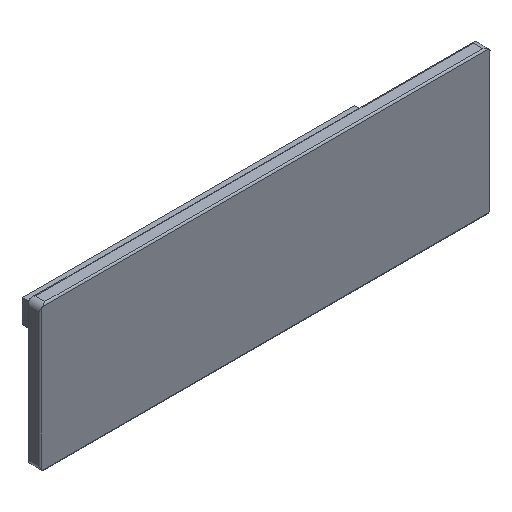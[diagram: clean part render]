
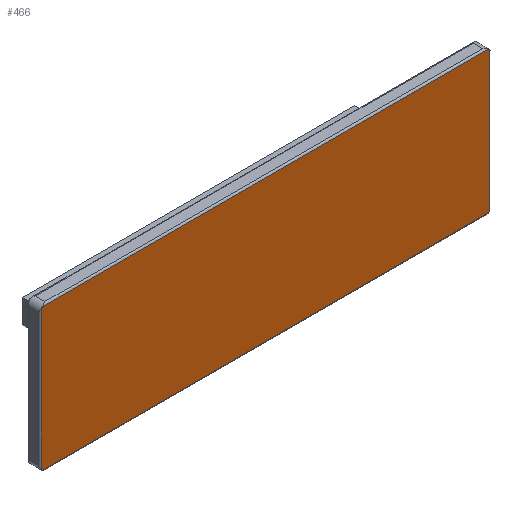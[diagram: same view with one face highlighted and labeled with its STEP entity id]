
A CAD part, isometric view. The second image highlights one B-rep face of the part: STEP entity #466.
In plain terms, the highlighted planar face has unit normal (0, -1, 0).
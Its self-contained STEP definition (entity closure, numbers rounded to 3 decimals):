
#286 = EDGE_CURVE( '', #670, #484, #739, .T. );
#288 = EDGE_CURVE( '', #368, #524, #741, .T. );
#348 = EDGE_CURVE( '', #524, #412, #810, .T. );
#354 = VERTEX_POINT( '', #817 );
#368 = VERTEX_POINT( '', #831 );
#394 = EDGE_CURVE( '', #484, #354, #860, .T. );
#412 = VERTEX_POINT( '', #879 );
#422 = VERTEX_POINT( '', #894 );
#450 = EDGE_CURVE( '', #354, #368, #923, .T. );
#466 = ADVANCED_FACE( '', ( #940 ), #941, .T. );
#484 = VERTEX_POINT( '', #961 );
#522 = EDGE_CURVE( '', #670, #422, #1003, .T. );
#524 = VERTEX_POINT( '', #1005 );
#566 = VERTEX_POINT( '', #1049 );
#616 = EDGE_CURVE( '', #566, #422, #1105, .T. );
#632 = EDGE_CURVE( '', #566, #412, #1122, .T. );
#670 = VERTEX_POINT( '', #1166 );
#739 = CIRCLE( '', #1267, 2. );
#741 = LINE( '', #1270, #1271 );
#810 = CIRCLE( '', #1392, 2. );
#817 = CARTESIAN_POINT( '', ( 117.5, -24., 21.823 ) );
#831 = CARTESIAN_POINT( '', ( 117.323, -24., 22. ) );
#860 = LINE( '', #1477, #1478 );
#879 = CARTESIAN_POINT( '', ( -21.5, -24., 21.823 ) );
#894 = CARTESIAN_POINT( '', ( -21.323, -24., -22. ) );
#923 = CIRCLE( '', #1586, 2. );
#940 = FACE_OUTER_BOUND( '', #1609, .T. );
#941 = PLANE( '', #1610 );
#961 = CARTESIAN_POINT( '', ( 117.5, -24., -21.823 ) );
#1003 = LINE( '', #1694, #1695 );
#1005 = CARTESIAN_POINT( '', ( -21.323, -24., 22. ) );
#1049 = CARTESIAN_POINT( '', ( -21.5, -24., -21.823 ) );
#1105 = CIRCLE( '', #1849, 2. );
#1122 = LINE( '', #1870, #1871 );
#1166 = CARTESIAN_POINT( '', ( 117.323, -24., -22. ) );
#1267 = AXIS2_PLACEMENT_3D( '', #1992, #1993, #1994 );
#1270 = CARTESIAN_POINT( '', ( 118., -24., 22. ) );
#1271 = VECTOR( '', #1995, 1. );
#1392 = AXIS2_PLACEMENT_3D( '', #2087, #2088, #2089 );
#1477 = CARTESIAN_POINT( '', ( 117.5, -24., 0. ) );
#1478 = VECTOR( '', #2140, 1. );
#1586 = AXIS2_PLACEMENT_3D( '', #2204, #2205, #2206 );
#1609 = EDGE_LOOP( '', ( #2219, #2220, #2221, #2222, #2223, #2224, #2225, #2226 ) );
#1610 = AXIS2_PLACEMENT_3D( '', #2227, #2228, #2229 );
#1694 = CARTESIAN_POINT( '', ( 118., -24., -22. ) );
#1695 = VECTOR( '', #2295, 1. );
#1849 = AXIS2_PLACEMENT_3D( '', #2382, #2383, #2384 );
#1870 = CARTESIAN_POINT( '', ( -21.5, -24., 0. ) );
#1871 = VECTOR( '', #2402, 1. );
#1992 = CARTESIAN_POINT( '', ( 116., -24., -20.5 ) );
#1993 = DIRECTION( '', ( 0., -1., 0. ) );
#1994 = DIRECTION( '', ( 1., 0., 0. ) );
#1995 = DIRECTION( '', ( -1., 0., 0. ) );
#2087 = CARTESIAN_POINT( '', ( -20., -24., 20.5 ) );
#2088 = DIRECTION( '', ( 0., -1., 0. ) );
#2089 = DIRECTION( '', ( -1., 0., 0. ) );
#2140 = DIRECTION( '', ( 0., 0., 1. ) );
#2204 = CARTESIAN_POINT( '', ( 116., -24., 20.5 ) );
#2205 = DIRECTION( '', ( 0., -1., 0. ) );
#2206 = DIRECTION( '', ( 0., 0., 1. ) );
#2219 = ORIENTED_EDGE( '', *, *, #394, .T. );
#2220 = ORIENTED_EDGE( '', *, *, #450, .T. );
#2221 = ORIENTED_EDGE( '', *, *, #288, .T. );
#2222 = ORIENTED_EDGE( '', *, *, #348, .T. );
#2223 = ORIENTED_EDGE( '', *, *, #632, .F. );
#2224 = ORIENTED_EDGE( '', *, *, #616, .T. );
#2225 = ORIENTED_EDGE( '', *, *, #522, .F. );
#2226 = ORIENTED_EDGE( '', *, *, #286, .T. );
#2227 = CARTESIAN_POINT( '', ( 118., -24., 22. ) );
#2228 = DIRECTION( '', ( 0., -1., 0. ) );
#2229 = DIRECTION( '', ( 0., 0., 1. ) );
#2295 = DIRECTION( '', ( -1., 0., 0. ) );
#2382 = CARTESIAN_POINT( '', ( -20., -24., -20.5 ) );
#2383 = DIRECTION( '', ( 0., -1., 0. ) );
#2384 = DIRECTION( '', ( 0., 0., -1. ) );
#2402 = DIRECTION( '', ( 0., 0., 1. ) );
